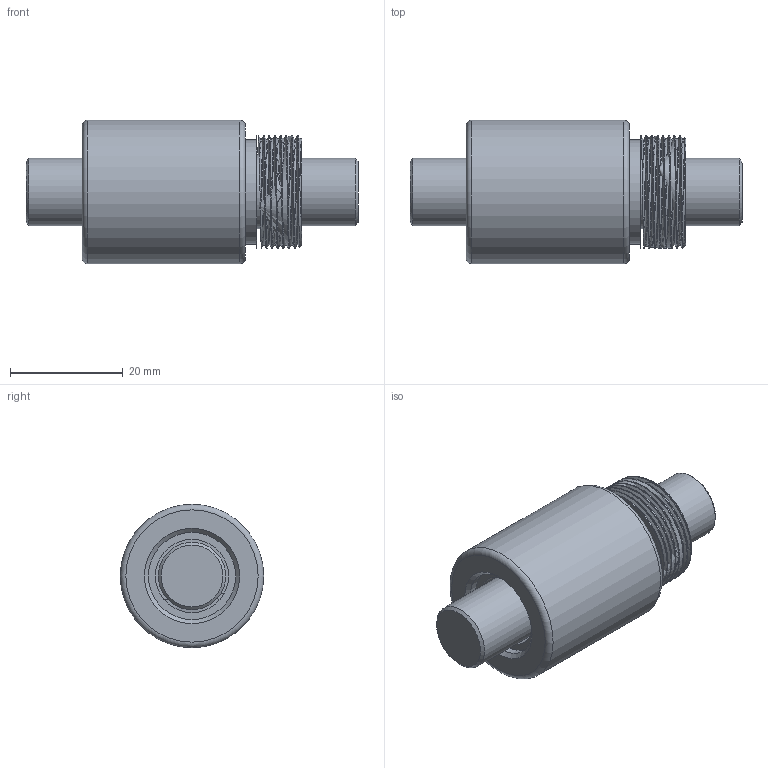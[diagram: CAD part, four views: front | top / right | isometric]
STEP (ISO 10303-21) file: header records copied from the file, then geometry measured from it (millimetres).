
FILE_DESCRIPTION (( 'STEP AP203' ), '1' );
FILE_NAME ('BSH01205-3.5.STEP', '2023-08-16T06:41:37', ( '' ), ( '' ), 'SwSTEP 2.0', 'SolidWorks 2022', '' );
FILE_SCHEMA (( 'CONFIG_CONTROL_DESIGN' ));
Length unit declared in the file: millimetre
Products named in the file (1): BSH01205-3.5
Bounding box: 59 x 25.5 x 25.5 mm (x, y, z)
Volume: 12885.8 mm3; surface area: 9689.6 mm2
Topology: 2 solids, 2 shells, 23 faces, 41 edges, 25 vertices
Faces by surface type: plane 8, cylinder 7, cone 4, bspline 2, torus 2
Full cylindrical faces by diameter (mm): 12 x1, 13 x1, 15.5 x1, 18.5 x1, 25.5 x1
Entity records: 5156 total; most frequent: CARTESIAN_POINT 4673, DIRECTION 85, ORIENTED_EDGE 62, AXIS2_PLACEMENT_3D 41, EDGE_LOOP 38, EDGE_CURVE 31, FACE_OUTER_BOUND 30, VERTEX_POINT 25
